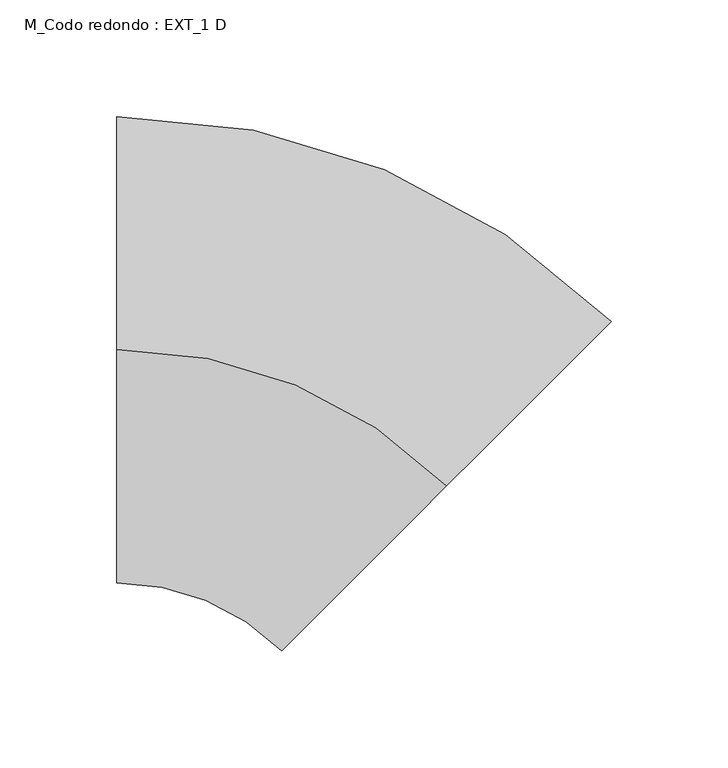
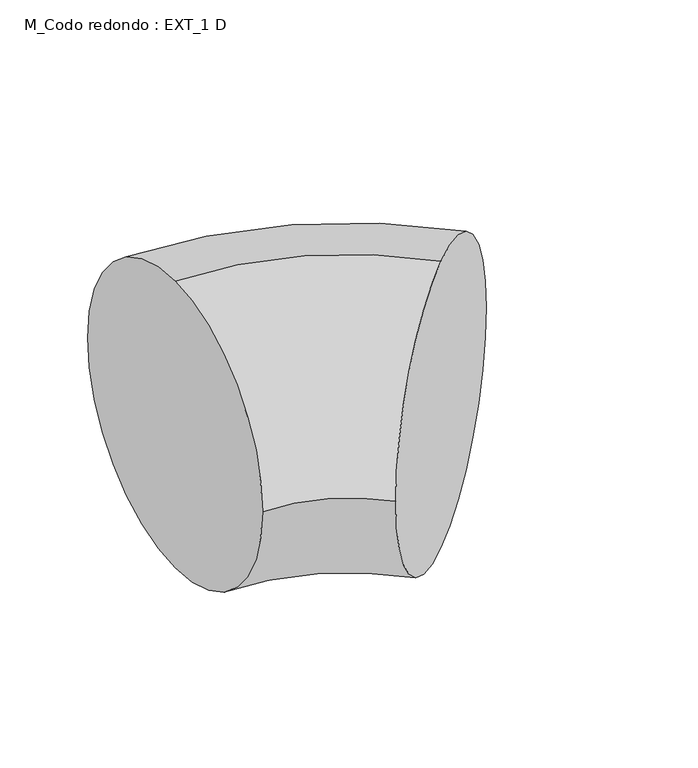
"""IFC4 building model written with IfcOpenShell, lengths in millimetres: duct fitting geometry, M_Codo redondo : EXT_1 D."""

from ifc_helpers import new_model, si_unit, point, frame, origin, place, context, project, spatial, circle_curve, ellipse_curve, trimmed, source, transform, mapped, element, save
from ifc_brep_helpers import plane_surface, revolved_surface, advanced_brep


def m_codo_redondo_ext_1_d_19f6bd6d(model_context):
    return source(origin(), model_context, "Body", "AdvancedBrep", [
        advanced_brep(
        [(-82.8427125, 0.0, 100.0), (-82.8427125, 100.0, 0.0), (-82.8427125, 0.0, -100.0), (-82.8427125, -100.0, 0.0), (58.5786438, -58.5786438, 100.0), (-12.1320344, -129.2893219, 0.0), (58.5786438, -58.5786438, -100.0), (129.2893219, 12.1320344, 0.0)],
        [
            (0, 1, circle_curve(frame((-82.8427125, 0.0, 0.0), z_axis=(-1.0, 0.0, 0.0), x_axis=(0.0, -1.0, 0.0)), 100.0)),
            (1, 2, circle_curve(frame((-82.8427125, 0.0, 0.0), z_axis=(-1.0, 0.0, 0.0), x_axis=(0.0, -1.0, 0.0)), 100.0)),
            (2, 3, circle_curve(frame((-82.8427125, 0.0, 0.0), z_axis=(-1.0, 0.0, 0.0), x_axis=(0.0, -1.0, 0.0)), 100.0)),
            (3, 0, circle_curve(frame((-82.8427125, 0.0, 0.0), z_axis=(-1.0, 0.0, 0.0), x_axis=(0.0, -1.0, 0.0)), 100.0)),
            (4, 5, circle_curve(frame((58.5786438, -58.5786438, 0.0), z_axis=(0.7071067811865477, -0.7071067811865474, 0.0), x_axis=(-0.7071067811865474, -0.7071067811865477, 0.0)), 100.0)),
            (5, 6, circle_curve(frame((58.5786438, -58.5786438, 0.0), z_axis=(0.7071067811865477, -0.7071067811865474, 0.0), x_axis=(-0.7071067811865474, -0.7071067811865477, 0.0)), 100.0)),
            (6, 7, circle_curve(frame((58.5786438, -58.5786438, 0.0), z_axis=(0.7071067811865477, -0.7071067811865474, 0.0), x_axis=(-0.7071067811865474, -0.7071067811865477, 0.0)), 100.0)),
            (7, 4, circle_curve(frame((58.5786438, -58.5786438, 0.0), z_axis=(0.7071067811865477, -0.7071067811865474, 0.0), x_axis=(-0.7071067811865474, -0.7071067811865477, 0.0)), 100.0)),
            (4, 0, circle_curve(frame((-82.8427125, -200.0, 100.0), z_axis=(0.0, 0.0, 1.0), x_axis=(0.0, 1.0, 0.0)), 200.0)),
            (3, 5, circle_curve(frame((-82.8427125, -200.0, 0.0), z_axis=(0.0, 0.0, -1.0), x_axis=(0.0, 1.0, 0.0)), 100.0)),
            (2, 6, circle_curve(frame((-82.8427125, -200.0, -100.0), z_axis=(0.0, 0.0, -1.0), x_axis=(0.0, 1.0, 0.0)), 200.0)),
            (1, 7, circle_curve(frame((-82.8427125, -200.0, 0.0), z_axis=(0.0, 0.0, -1.0), x_axis=(0.0, 1.0, 0.0)), 300.0)),
        ],
        [
            plane_surface(frame((-82.8427125, 0.0, 0.0), z_axis=(-1.0, 0.0, 0.0), x_axis=(0.0, 0.0, 1.0))),
            plane_surface(frame((58.5786438, -58.5786438, 0.0), z_axis=(0.7071067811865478, -0.7071067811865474, 0.0), x_axis=(0.0, 0.0, 1.0))),
            revolved_surface(trimmed(ellipse_curve(frame((-82.8427125, 0.0, 0.0), z_axis=(1.0, 0.0, 0.0), x_axis=(0.0, -1.0, 0.0)), 100.0, 100.0), [point((-82.8427125, 0.0, 100.0))], [point((-82.8427125, -100.0, 0.0))], True, "CARTESIAN"), (-82.8427125, -200.0, 0.0), (0.0, 0.0, 1.0)),
            revolved_surface(trimmed(ellipse_curve(frame((-82.8427125, 0.0, 0.0), z_axis=(1.0, 0.0, 0.0), x_axis=(0.0, -1.0, 0.0)), 100.0, 100.0), [point((-82.8427125, -100.0, 0.0))], [point((-82.8427125, 0.0, -100.0))], True, "CARTESIAN"), (-82.8427125, -200.0, 0.0), (0.0, 0.0, 1.0)),
            revolved_surface(trimmed(ellipse_curve(frame((-82.8427125, 0.0, 0.0), z_axis=(1.0, 0.0, 0.0), x_axis=(0.0, -1.0, 0.0)), 100.0, 100.0), [point((-82.8427125, 0.0, -100.0))], [point((-82.8427125, 100.0, 0.0))], True, "CARTESIAN"), (-82.8427125, -200.0, 0.0), (0.0, 0.0, 1.0)),
            revolved_surface(trimmed(ellipse_curve(frame((-82.8427125, 0.0, 0.0), z_axis=(1.0, 0.0, 0.0), x_axis=(0.0, -1.0, 0.0)), 100.0, 100.0), [point((-82.8427125, 100.0, 0.0))], [point((-82.8427125, 0.0, 100.0))], True, "CARTESIAN"), (-82.8427125, -200.0, 0.0), (0.0, 0.0, 1.0)),
        ],
        [
            (0, [[1, 2, 3, 4]]),
            (1, [[5, 6, 7, 8]]),
            (2, [[-5, 9, -4, 10]]),
            (3, [[-6, -10, -3, 11]]),
            (4, [[-7, -11, -2, 12]]),
            (5, [[-8, -12, -1, -9]]),
        ],
    ),
    ])


if __name__ == "__main__":
    model = new_model("IFC4")
    model_context = context("Model", 3, world=origin())
    ifc_project = project(units=[si_unit("LENGTHUNIT", "METRE", prefix="MILLI")], contexts=[model_context])
    site = spatial("IfcSite", under=ifc_project)
    building = spatial("IfcBuilding", under=site)
    placement = place(None, origin())
    m_codo_redondo_ext_1_d_shape = m_codo_redondo_ext_1_d_19f6bd6d(model_context)
    element("IfcDuctFitting", 1, ObjectType="M_Codo redondo : EXT_1 D", at=placement, inside=building, context=model_context, shape_type="MappedRepresentation", body=[
        mapped(m_codo_redondo_ext_1_d_shape, transform((0.0, 0.0, 0.0), x_axis=(1.0, 0.0, 0.0), y_axis=(0.0, 1.0, 0.0), z_axis=(0.0, 0.0, 1.0))),
    ])
    save(model, "model.ifc")
